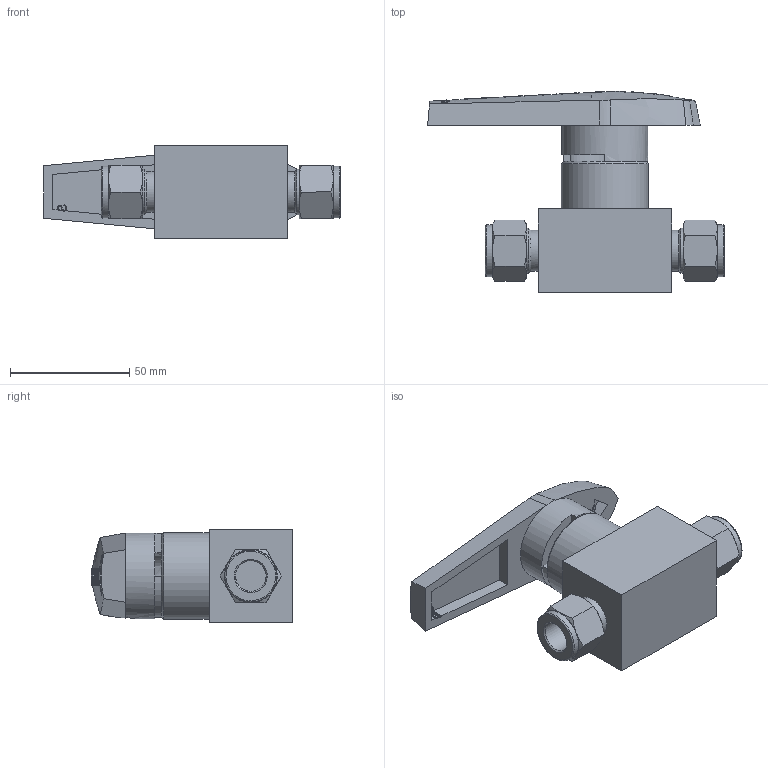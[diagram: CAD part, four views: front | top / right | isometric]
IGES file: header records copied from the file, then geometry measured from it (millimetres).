
Global section: file name: SBV120H4-S8-S316; native system: Autodesk Inventor 2016; preprocessor: unknown; author: 이승민,,11,0; organization: 20161215.102432; date: 20161216.191610; units: millimetre
Bounding box: 124.4 x 84.28 x 39 mm (x, y, z)
Volume: 136915.3 mm3; surface area: 33057.8 mm2
Topology: 2 solids, 2 shells, 454 faces, 1275 edges, 844 vertices
Faces by surface type: bspline 454
